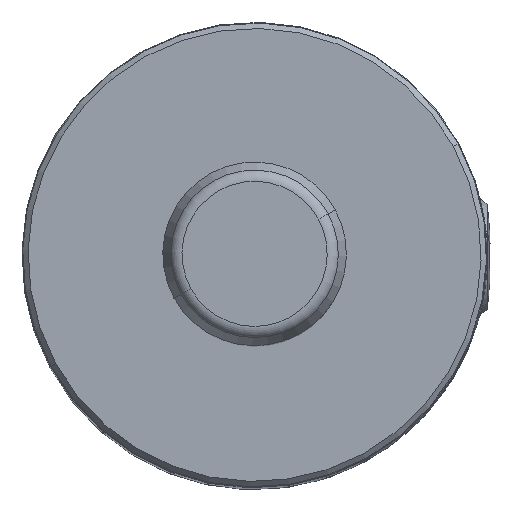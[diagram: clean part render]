
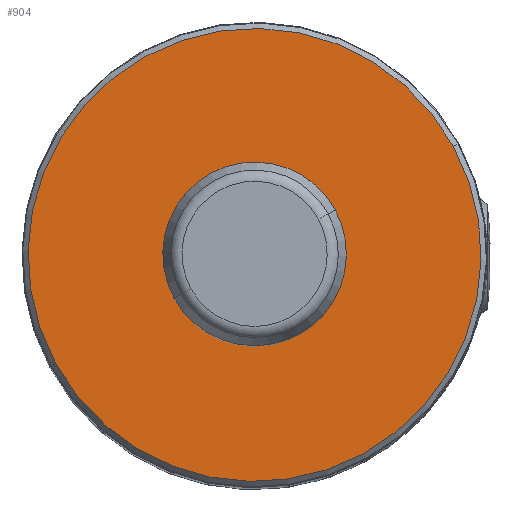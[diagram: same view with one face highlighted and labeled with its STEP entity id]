
A CAD part, top view. The second image highlights one B-rep face of the part: STEP entity #904.
In plain terms, the highlighted planar face has unit normal (0, 0, 1).
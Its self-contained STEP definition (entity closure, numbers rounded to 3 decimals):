
#881=CARTESIAN_POINT('Axis2P3D Location',(18.5,0.,98.)) ;
#886=CARTESIAN_POINT('Axis2P3D Location',(0.,0.,98.)) ;
#890=CARTESIAN_POINT('Vertex',(16.235,8.869,98.)) ;
#892=CARTESIAN_POINT('Vertex',(-16.235,-8.869,98.)) ;
#895=CARTESIAN_POINT('Axis2P3D Location',(0.,0.,98.)) ;
#882=DIRECTION('Axis2P3D Direction',(0.,0.,1.)) ;
#883=DIRECTION('Axis2P3D XDirection',(1.,0.,0.)) ;
#887=DIRECTION('Axis2P3D Direction',(0.,0.,1.)) ;
#896=DIRECTION('Axis2P3D Direction',(0.,0.,1.)) ;
#884=AXIS2_PLACEMENT_3D('Plane Axis2P3D',#881,#882,#883) ;
#888=AXIS2_PLACEMENT_3D('Circle Axis2P3D',#886,#887,$) ;
#897=AXIS2_PLACEMENT_3D('Circle Axis2P3D',#895,#896,$) ;
#901=ORIENTED_EDGE('',*,*,#894,.T.) ;
#902=ORIENTED_EDGE('',*,*,#899,.T.) ;
#904=ADVANCED_FACE('',(#903),#885,.T.) ;
#889=CIRCLE('generated circle',#888,18.5) ;
#898=CIRCLE('generated circle',#897,18.5) ;
#894=EDGE_CURVE('',#891,#893,#889,.T.) ;
#899=EDGE_CURVE('',#893,#891,#898,.T.) ;
#900=EDGE_LOOP('',(#901,#902)) ;
#903=FACE_OUTER_BOUND('',#900,.T.) ;
#885=PLANE('Plane',#884) ;
#891=VERTEX_POINT('',#890) ;
#893=VERTEX_POINT('',#892) ;
